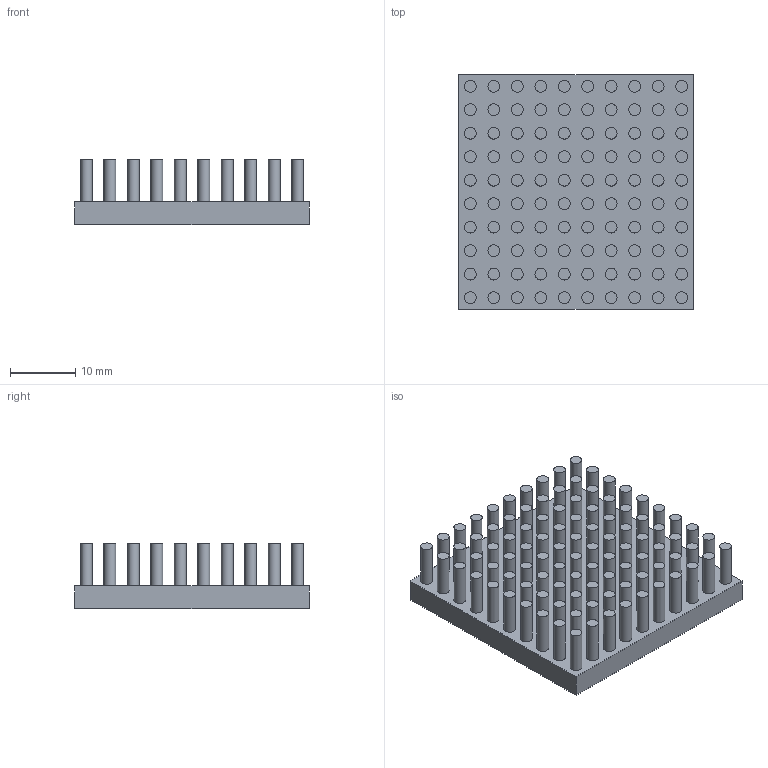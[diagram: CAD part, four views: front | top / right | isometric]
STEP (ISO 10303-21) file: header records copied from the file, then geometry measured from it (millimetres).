
FILE_DESCRIPTION(/* description */ (''),/* implementation_level */ '2;1');
FILE_NAME(/* name */ 'PB3636-B3.5-H10-P100.stp',/* time_stamp */ '2013-12-30T13:51:11+08:00',/* author */ (''),/* organization */ (''),/* preprocessor_version */ 'ST-DEVELOPER v14',/* originating_system */ 'SIEMENS PLM Software NX 8.0',/* authorisation */ '');
FILE_SCHEMA (('CONFIG_CONTROL_DESIGN'));
Length unit declared in the file: millimetre
Products named in the file (1): PB3636-P100
Bounding box: 36 x 36 x 10 mm (x, y, z)
Volume: 6190 mm3; surface area: 6771.7 mm2
Topology: 1 solids, 1 shells, 206 faces, 312 edges, 208 vertices
Faces by surface type: plane 106, cylinder 100
Full cylindrical faces by diameter (mm): 1.8 x100
Entity records: 4240 total; most frequent: DIRECTION 826, CARTESIAN_POINT 627, ORIENTED_EDGE 424, AXIS2_PLACEMENT_3D 407, EDGE_LOOP 406, FACE_BOUND 301, EDGE_CURVE 212, VERTEX_POINT 208
